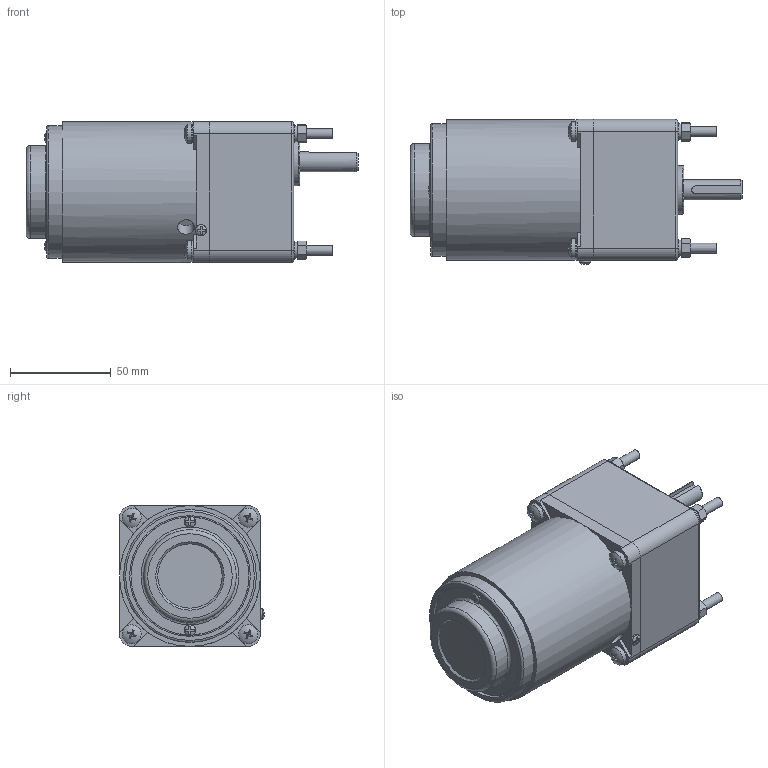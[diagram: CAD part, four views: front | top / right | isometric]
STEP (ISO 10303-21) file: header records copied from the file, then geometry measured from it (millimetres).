
FILE_DESCRIPTION(/* description */ (''),/* implementation_level */ '2;1');
FILE_NAME(/* name */ '70高箱T-15W调速.stp',/* time_stamp */ '2022-10-31T09:21:10+08:00',/* author */ (''),/* organization */ (''),/* preprocessor_version */ 'ST-DEVELOPER v16.7',/* originating_system */ 'SIEMENS PLM Software NX 1899',/* authorisation */ '');
FILE_SCHEMA (('AP203_CONFIGURATION_CONTROLLED_3D_DESIGN_OF_MECHANICAL_PARTS_AND_ASSEMBLIES_MIM_LF { 1 0 10303 403 2 1 2}'));
Length unit declared in the file: millimetre
Products named in the file (1): yf186188FEB6lc77
Bounding box: 165 x 72.04 x 70 mm (x, y, z)
Volume: 535571.2 mm3; surface area: 66595.8 mm2
Topology: 22 solids, 25 shells, 435 faces, 1019 edges, 652 vertices
Faces by surface type: plane 190, bspline 80, cylinder 79, cone 66, torus 13, sphere 7
Full cylindrical faces by diameter (mm): 2.7 x2, 4.351 x4, 4.826 x4, 5 x4, 5.3 x8, 5.6 x3, 6 x9, 8.3 x1, 9 x8, 9.5 x4, 10 x1, 24 x1, 37 x1, 46 x1, 58.6 x1, 60 x1, 63 x1, 66 x1, 66.6 x2, 70 x1
Entity records: 13487 total; most frequent: CARTESIAN_POINT 3478, ORIENTED_EDGE 1798, DIRECTION 1613, EDGE_CURVE 899, AXIS2_PLACEMENT_3D 687, VERTEX_POINT 624, EDGE_LOOP 583, ADVANCED_FACE 435
